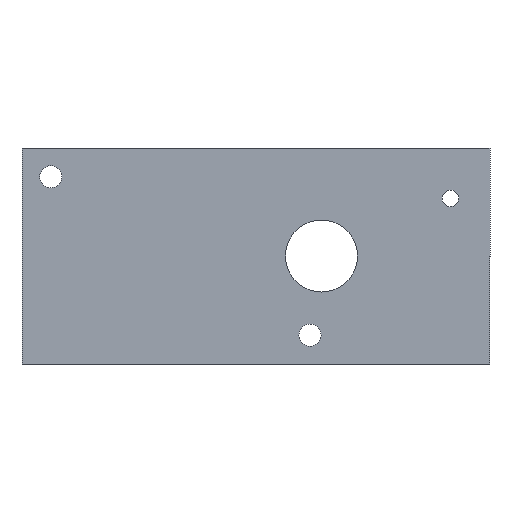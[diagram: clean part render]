
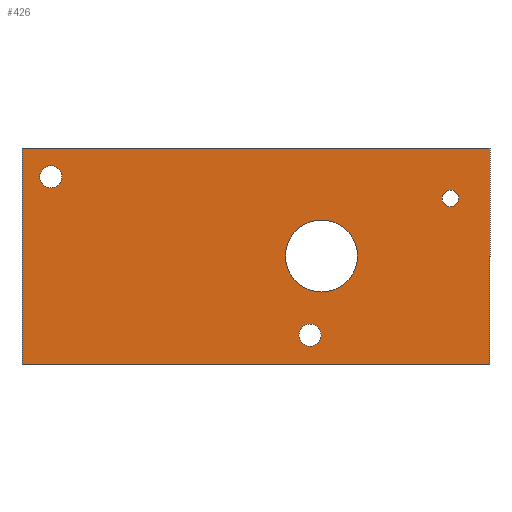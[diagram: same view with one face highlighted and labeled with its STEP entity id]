
A CAD part, front view. The second image highlights one B-rep face of the part: STEP entity #426.
In plain terms, the highlighted planar face has unit normal (0, -1, 0).
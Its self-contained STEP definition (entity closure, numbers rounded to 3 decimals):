
#6 = CARTESIAN_POINT ( 'NONE',  ( -18., 0., 11. ) ) ;
#7 = EDGE_LOOP ( 'NONE', ( #292, #384 ) ) ;
#19 = VERTEX_POINT ( 'NONE', #22 ) ;
#22 = CARTESIAN_POINT ( 'NONE',  ( 19.6, 0., -5. ) ) ;
#29 = VERTEX_POINT ( 'NONE', #97 ) ;
#33 = EDGE_LOOP ( 'NONE', ( #387, #404, #339, #611 ) ) ;
#57 = DIRECTION ( 'NONE',  ( 0., 0., 1. ) ) ;
#73 = CARTESIAN_POINT ( 'NONE',  ( -22., 0., -15. ) ) ;
#84 = CARTESIAN_POINT ( 'NONE',  ( 0., 0., 0. ) ) ;
#86 = DIRECTION ( 'NONE',  ( -1., 0., 0. ) ) ;
#97 = CARTESIAN_POINT ( 'NONE',  ( 43., 0., 15. ) ) ;
#100 = EDGE_LOOP ( 'NONE', ( #652, #240 ) ) ;
#117 = AXIS2_PLACEMENT_3D ( 'NONE', #84, #255, #198 ) ;
#119 = CIRCLE ( 'NONE', #618, 1.15 ) ;
#123 = DIRECTION ( 'NONE',  ( 0., 0., 1. ) ) ;
#125 = CARTESIAN_POINT ( 'NONE',  ( 19.6, 0., 0. ) ) ;
#127 = CARTESIAN_POINT ( 'NONE',  ( 43., 0., -15. ) ) ;
#128 = AXIS2_PLACEMENT_3D ( 'NONE', #224, #409, #341 ) ;
#130 = VERTEX_POINT ( 'NONE', #376 ) ;
#132 = FACE_BOUND ( 'NONE', #7, .T. ) ;
#138 = PLANE ( 'NONE',  #117 ) ;
#139 = AXIS2_PLACEMENT_3D ( 'NONE', #291, #226, #57 ) ;
#142 = CARTESIAN_POINT ( 'NONE',  ( 37.5, 0., 6.85 ) ) ;
#162 = EDGE_LOOP ( 'NONE', ( #471, #408 ) ) ;
#164 = VECTOR ( 'NONE', #570, 1000. ) ;
#165 = CIRCLE ( 'NONE', #139, 1.15 ) ;
#170 = CARTESIAN_POINT ( 'NONE',  ( 18., 0., -11. ) ) ;
#176 = VECTOR ( 'NONE', #86, 1000. ) ;
#183 = DIRECTION ( 'NONE',  ( 0., 1., 0. ) ) ;
#185 = EDGE_CURVE ( 'NONE', #285, #644, #467, .T. ) ;
#189 = CIRCLE ( 'NONE', #550, 5. ) ;
#195 = VERTEX_POINT ( 'NONE', #524 ) ;
#198 = DIRECTION ( 'NONE',  ( 0., 0., 1. ) ) ;
#204 = CARTESIAN_POINT ( 'NONE',  ( 43., 0., -15. ) ) ;
#205 = EDGE_CURVE ( 'NONE', #19, #287, #189, .T. ) ;
#209 = CARTESIAN_POINT ( 'NONE',  ( -22., 0., 15. ) ) ;
#213 = DIRECTION ( 'NONE',  ( 0., 0., 1. ) ) ;
#214 = VERTEX_POINT ( 'NONE', #304 ) ;
#224 = CARTESIAN_POINT ( 'NONE',  ( -18., 0., 11. ) ) ;
#225 = CARTESIAN_POINT ( 'NONE',  ( 37.5, 0., 9.15 ) ) ;
#226 = DIRECTION ( 'NONE',  ( 0., 1., 0. ) ) ;
#228 = ORIENTED_EDGE ( 'NONE', *, *, #185, .T. ) ;
#240 = ORIENTED_EDGE ( 'NONE', *, *, #320, .T. ) ;
#243 = DIRECTION ( 'NONE',  ( 0., 1., 0. ) ) ;
#245 = AXIS2_PLACEMENT_3D ( 'NONE', #6, #482, #420 ) ;
#246 = CIRCLE ( 'NONE', #553, 1.537 ) ;
#248 = CARTESIAN_POINT ( 'NONE',  ( 19.6, 0., 5. ) ) ;
#255 = DIRECTION ( 'NONE',  ( 0., 1., 0. ) ) ;
#259 = ORIENTED_EDGE ( 'NONE', *, *, #398, .T. ) ;
#261 = DIRECTION ( 'NONE',  ( 0., 0., -1. ) ) ;
#267 = EDGE_CURVE ( 'NONE', #775, #704, #663, .T. ) ;
#276 = DIRECTION ( 'NONE',  ( 0., 1., 0. ) ) ;
#285 = VERTEX_POINT ( 'NONE', #665 ) ;
#287 = VERTEX_POINT ( 'NONE', #248 ) ;
#291 = CARTESIAN_POINT ( 'NONE',  ( 37.5, 0., 8. ) ) ;
#292 = ORIENTED_EDGE ( 'NONE', *, *, #610, .T. ) ;
#304 = CARTESIAN_POINT ( 'NONE',  ( -22., 0., 15. ) ) ;
#314 = EDGE_CURVE ( 'NONE', #444, #754, #119, .T. ) ;
#320 = EDGE_CURVE ( 'NONE', #195, #130, #485, .T. ) ;
#337 = CARTESIAN_POINT ( 'NONE',  ( 37.5, 0., 8. ) ) ;
#339 = ORIENTED_EDGE ( 'NONE', *, *, #677, .F. ) ;
#341 = DIRECTION ( 'NONE',  ( 0., 0., 1. ) ) ;
#370 = VECTOR ( 'NONE', #213, 1000. ) ;
#373 = FACE_OUTER_BOUND ( 'NONE', #33, .T. ) ;
#376 = CARTESIAN_POINT ( 'NONE',  ( 18., 0., -9.463 ) ) ;
#384 = ORIENTED_EDGE ( 'NONE', *, *, #205, .T. ) ;
#386 = LINE ( 'NONE', #209, #164 ) ;
#387 = ORIENTED_EDGE ( 'NONE', *, *, #448, .F. ) ;
#398 = EDGE_CURVE ( 'NONE', #644, #285, #508, .T. ) ;
#400 = DIRECTION ( 'NONE',  ( 0., 0., 1. ) ) ;
#404 = ORIENTED_EDGE ( 'NONE', *, *, #267, .F. ) ;
#406 = CIRCLE ( 'NONE', #510, 5. ) ;
#408 = ORIENTED_EDGE ( 'NONE', *, *, #314, .T. ) ;
#409 = DIRECTION ( 'NONE',  ( 0., 1., 0. ) ) ;
#420 = DIRECTION ( 'NONE',  ( 0., 0., 1. ) ) ;
#426 = ADVANCED_FACE ( 'NONE', ( #659, #132, #556, #735, #373 ), #138, .F. ) ;
#444 = VERTEX_POINT ( 'NONE', #142 ) ;
#448 = EDGE_CURVE ( 'NONE', #704, #214, #558, .T. ) ;
#467 = CIRCLE ( 'NONE', #128, 1.537 ) ;
#471 = ORIENTED_EDGE ( 'NONE', *, *, #741, .T. ) ;
#482 = DIRECTION ( 'NONE',  ( 0., 1., 0. ) ) ;
#485 = CIRCLE ( 'NONE', #782, 1.537 ) ;
#502 = LINE ( 'NONE', #204, #594 ) ;
#508 = CIRCLE ( 'NONE', #245, 1.537 ) ;
#510 = AXIS2_PLACEMENT_3D ( 'NONE', #600, #183, #123 ) ;
#524 = CARTESIAN_POINT ( 'NONE',  ( 18., 0., -12.537 ) ) ;
#525 = DIRECTION ( 'NONE',  ( 0., 0., 1. ) ) ;
#550 = AXIS2_PLACEMENT_3D ( 'NONE', #125, #243, #612 ) ;
#553 = AXIS2_PLACEMENT_3D ( 'NONE', #170, #638, #525 ) ;
#556 = FACE_BOUND ( 'NONE', #640, .T. ) ;
#558 = LINE ( 'NONE', #680, #370 ) ;
#570 = DIRECTION ( 'NONE',  ( 1., 0., 0. ) ) ;
#586 = CARTESIAN_POINT ( 'NONE',  ( 18., 0., -11. ) ) ;
#594 = VECTOR ( 'NONE', #261, 1000. ) ;
#600 = CARTESIAN_POINT ( 'NONE',  ( 19.6, 0., 0. ) ) ;
#610 = EDGE_CURVE ( 'NONE', #287, #19, #406, .T. ) ;
#611 = ORIENTED_EDGE ( 'NONE', *, *, #654, .F. ) ;
#612 = DIRECTION ( 'NONE',  ( 0., 0., 1. ) ) ;
#618 = AXIS2_PLACEMENT_3D ( 'NONE', #337, #276, #642 ) ;
#638 = DIRECTION ( 'NONE',  ( 0., 1., 0. ) ) ;
#640 = EDGE_LOOP ( 'NONE', ( #259, #228 ) ) ;
#642 = DIRECTION ( 'NONE',  ( 0., 0., 1. ) ) ;
#644 = VERTEX_POINT ( 'NONE', #725 ) ;
#652 = ORIENTED_EDGE ( 'NONE', *, *, #746, .T. ) ;
#654 = EDGE_CURVE ( 'NONE', #214, #29, #386, .T. ) ;
#659 = FACE_BOUND ( 'NONE', #162, .T. ) ;
#663 = LINE ( 'NONE', #73, #176 ) ;
#665 = CARTESIAN_POINT ( 'NONE',  ( -18., 0., 9.463 ) ) ;
#677 = EDGE_CURVE ( 'NONE', #29, #775, #502, .T. ) ;
#680 = CARTESIAN_POINT ( 'NONE',  ( -22., 0., -15. ) ) ;
#683 = CARTESIAN_POINT ( 'NONE',  ( -22., 0., -15. ) ) ;
#704 = VERTEX_POINT ( 'NONE', #683 ) ;
#725 = CARTESIAN_POINT ( 'NONE',  ( -18., 0., 12.537 ) ) ;
#735 = FACE_BOUND ( 'NONE', #100, .T. ) ;
#741 = EDGE_CURVE ( 'NONE', #754, #444, #165, .T. ) ;
#746 = EDGE_CURVE ( 'NONE', #130, #195, #246, .T. ) ;
#754 = VERTEX_POINT ( 'NONE', #225 ) ;
#762 = DIRECTION ( 'NONE',  ( 0., 1., 0. ) ) ;
#775 = VERTEX_POINT ( 'NONE', #127 ) ;
#782 = AXIS2_PLACEMENT_3D ( 'NONE', #586, #762, #400 ) ;
